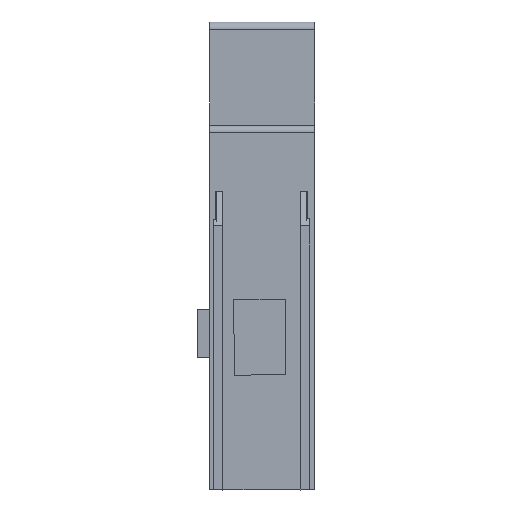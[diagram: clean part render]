
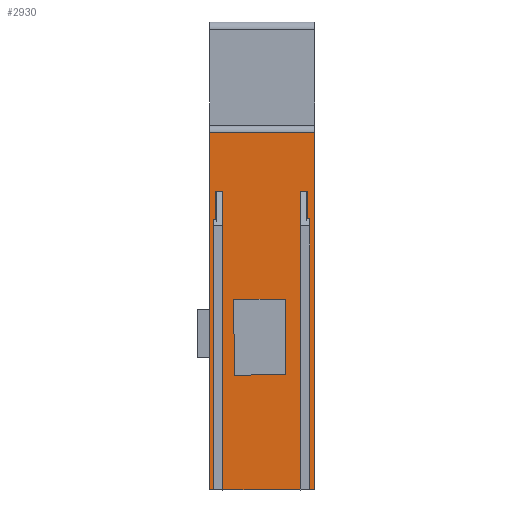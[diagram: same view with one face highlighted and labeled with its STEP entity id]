
A CAD part, front view. The second image highlights one B-rep face of the part: STEP entity #2930.
In plain terms, the highlighted planar face has unit normal (0, -1, 0).
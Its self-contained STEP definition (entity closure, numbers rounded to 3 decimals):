
#11 = VERTEX_POINT ( 'NONE', #1329 ) ;
#48 = DIRECTION ( 'NONE',  ( 0., -1., 0. ) ) ;
#61 = LINE ( 'NONE', #399, #1657 ) ;
#82 = VERTEX_POINT ( 'NONE', #292 ) ;
#87 = FACE_OUTER_BOUND ( 'NONE', #1311, .T. ) ;
#106 = CARTESIAN_POINT ( 'NONE',  ( 1.514, -32.641, 15.684 ) ) ;
#115 = CARTESIAN_POINT ( 'NONE',  ( -7.982, -32.641, 63.491 ) ) ;
#261 = EDGE_CURVE ( 'NONE', #1319, #3561, #1731, .T. ) ;
#278 = CARTESIAN_POINT ( 'NONE',  ( 3.459, -32.641, 0. ) ) ;
#292 = CARTESIAN_POINT ( 'NONE',  ( -7.982, -32.641, 0. ) ) ;
#301 = DIRECTION ( 'NONE',  ( -1., 0., 0. ) ) ;
#303 = DIRECTION ( 'NONE',  ( -1., 0., 0. ) ) ;
#319 = DIRECTION ( 'NONE',  ( 1., 0., 0. ) ) ;
#358 = EDGE_CURVE ( 'NONE', #3573, #3194, #3137, .T. ) ;
#399 = CARTESIAN_POINT ( 'NONE',  ( -8.85, -32.641, 40.5 ) ) ;
#408 = DIRECTION ( 'NONE',  ( 0., 0., -1. ) ) ;
#415 = EDGE_CURVE ( 'NONE', #1973, #4287, #810, .T. ) ;
#451 = CARTESIAN_POINT ( 'NONE',  ( 3.459, -32.641, 40.5 ) ) ;
#452 = CARTESIAN_POINT ( 'NONE',  ( 5.45, -32.641, 48.491 ) ) ;
#625 = LINE ( 'NONE', #1629, #3317 ) ;
#627 = CARTESIAN_POINT ( 'NONE',  ( -7.041, -32.641, 63.491 ) ) ;
#660 = DIRECTION ( 'NONE',  ( 1., 0., 0. ) ) ;
#721 = CARTESIAN_POINT ( 'NONE',  ( 4.462, -32.641, 63.491 ) ) ;
#731 = AXIS2_PLACEMENT_3D ( 'NONE', #2842, #48, #3804 ) ;
#736 = EDGE_CURVE ( 'NONE', #4081, #82, #2147, .T. ) ;
#746 = VECTOR ( 'NONE', #303, 1000. ) ;
#810 = LINE ( 'NONE', #1014, #2540 ) ;
#834 = EDGE_CURVE ( 'NONE', #2017, #1952, #4047, .T. ) ;
#858 = CARTESIAN_POINT ( 'NONE',  ( 5.45, -32.641, 0. ) ) ;
#938 = DIRECTION ( 'NONE',  ( 0., 0., -1. ) ) ;
#1014 = CARTESIAN_POINT ( 'NONE',  ( -8.85, -32.641, 0. ) ) ;
#1023 = LINE ( 'NONE', #2024, #1129 ) ;
#1024 = VERTEX_POINT ( 'NONE', #278 ) ;
#1064 = EDGE_CURVE ( 'NONE', #2327, #2215, #3138, .T. ) ;
#1108 = CARTESIAN_POINT ( 'NONE',  ( -5.349, -32.641, -0.047 ) ) ;
#1111 = EDGE_CURVE ( 'NONE', #2017, #3878, #1938, .T. ) ;
#1129 = VECTOR ( 'NONE', #408, 1000. ) ;
#1165 = EDGE_CURVE ( 'NONE', #1952, #1973, #1023, .T. ) ;
#1175 = LINE ( 'NONE', #721, #3861 ) ;
#1276 = CARTESIAN_POINT ( 'NONE',  ( -7.041, -32.641, 0. ) ) ;
#1311 = EDGE_LOOP ( 'NONE', ( #3599, #3698, #3999, #3935, #3564, #2764, #3845, #2373, #2922, #3612, #2483, #1757 ) ) ;
#1314 = ORIENTED_EDGE ( 'NONE', *, *, #261, .T. ) ;
#1319 = VERTEX_POINT ( 'NONE', #106 ) ;
#1329 = CARTESIAN_POINT ( 'NONE',  ( -7.041, -32.641, 40.5 ) ) ;
#1364 = ORIENTED_EDGE ( 'NONE', *, *, #1064, .T. ) ;
#1392 = LINE ( 'NONE', #3054, #4407 ) ;
#1453 = ORIENTED_EDGE ( 'NONE', *, *, #2283, .T. ) ;
#1506 = CARTESIAN_POINT ( 'NONE',  ( -7.982, -32.641, 40.5 ) ) ;
#1518 = CARTESIAN_POINT ( 'NONE',  ( -5.485, -32.641, 15.561 ) ) ;
#1546 = LINE ( 'NONE', #4429, #746 ) ;
#1582 = EDGE_LOOP ( 'NONE', ( #3173, #1364, #1453, #1314 ) ) ;
#1592 = CARTESIAN_POINT ( 'NONE',  ( -8.85, -32.641, 48.491 ) ) ;
#1629 = CARTESIAN_POINT ( 'NONE',  ( 3.459, -32.641, 63.491 ) ) ;
#1654 = DIRECTION ( 'NONE',  ( 0., 0., -1. ) ) ;
#1657 = VECTOR ( 'NONE', #3821, 1000. ) ;
#1691 = CARTESIAN_POINT ( 'NONE',  ( -8.85, -32.641, 0. ) ) ;
#1731 = LINE ( 'NONE', #2522, #3664 ) ;
#1745 = EDGE_CURVE ( 'NONE', #11, #3370, #1930, .T. ) ;
#1757 = ORIENTED_EDGE ( 'NONE', *, *, #415, .F. ) ;
#1824 = VECTOR ( 'NONE', #938, 1000. ) ;
#1867 = EDGE_CURVE ( 'NONE', #4081, #11, #61, .T. ) ;
#1887 = DIRECTION ( 'NONE',  ( 1., 0., 0. ) ) ;
#1904 = CARTESIAN_POINT ( 'NONE',  ( -8.85, -32.641, 48.491 ) ) ;
#1925 = LINE ( 'NONE', #1108, #2299 ) ;
#1930 = LINE ( 'NONE', #627, #1824 ) ;
#1938 = LINE ( 'NONE', #1691, #2039 ) ;
#1944 = VECTOR ( 'NONE', #1887, 1000. ) ;
#1952 = VERTEX_POINT ( 'NONE', #452 ) ;
#1973 = VERTEX_POINT ( 'NONE', #858 ) ;
#2017 = VERTEX_POINT ( 'NONE', #1592 ) ;
#2018 = CARTESIAN_POINT ( 'NONE',  ( -8.85, -32.641, 40.5 ) ) ;
#2024 = CARTESIAN_POINT ( 'NONE',  ( 5.45, -32.641, 0. ) ) ;
#2039 = VECTOR ( 'NONE', #2722, 1000. ) ;
#2042 = VECTOR ( 'NONE', #3864, 1000. ) ;
#2090 = EDGE_CURVE ( 'NONE', #82, #3878, #1546, .T. ) ;
#2128 = PLANE ( 'NONE',  #731 ) ;
#2147 = LINE ( 'NONE', #115, #2042 ) ;
#2215 = VERTEX_POINT ( 'NONE', #2737 ) ;
#2283 = EDGE_CURVE ( 'NONE', #2215, #1319, #1392, .T. ) ;
#2299 = VECTOR ( 'NONE', #4180, 1000. ) ;
#2327 = VERTEX_POINT ( 'NONE', #3151 ) ;
#2362 = CARTESIAN_POINT ( 'NONE',  ( 0., -32.641, 25.883 ) ) ;
#2373 = ORIENTED_EDGE ( 'NONE', *, *, #3329, .F. ) ;
#2381 = EDGE_CURVE ( 'NONE', #3561, #2327, #1925, .T. ) ;
#2477 = VECTOR ( 'NONE', #319, 1000. ) ;
#2483 = ORIENTED_EDGE ( 'NONE', *, *, #3829, .T. ) ;
#2513 = DIRECTION ( 'NONE',  ( 0., 0., -1. ) ) ;
#2522 = CARTESIAN_POINT ( 'NONE',  ( -0.273, -32.641, 15.652 ) ) ;
#2540 = VECTOR ( 'NONE', #3764, 1000. ) ;
#2595 = CARTESIAN_POINT ( 'NONE',  ( 4.462, -32.641, 0. ) ) ;
#2617 = EDGE_CURVE ( 'NONE', #3573, #1024, #625, .T. ) ;
#2722 = DIRECTION ( 'NONE',  ( 0., 0., -1. ) ) ;
#2737 = CARTESIAN_POINT ( 'NONE',  ( 1.425, -32.641, 25.883 ) ) ;
#2764 = ORIENTED_EDGE ( 'NONE', *, *, #1867, .T. ) ;
#2842 = CARTESIAN_POINT ( 'NONE',  ( -8.85, -32.641, 0. ) ) ;
#2922 = ORIENTED_EDGE ( 'NONE', *, *, #2617, .F. ) ;
#2930 = ADVANCED_FACE ( 'NONE', ( #87, #3101 ), #2128, .T. ) ;
#2931 = LINE ( 'NONE', #4395, #3262 ) ;
#3024 = VECTOR ( 'NONE', #660, 1000. ) ;
#3054 = CARTESIAN_POINT ( 'NONE',  ( 1.651, -32.641, 0.014 ) ) ;
#3101 = FACE_BOUND ( 'NONE', #1582, .T. ) ;
#3137 = LINE ( 'NONE', #2018, #3024 ) ;
#3138 = LINE ( 'NONE', #2362, #2477 ) ;
#3151 = CARTESIAN_POINT ( 'NONE',  ( -5.575, -32.641, 25.883 ) ) ;
#3173 = ORIENTED_EDGE ( 'NONE', *, *, #2381, .T. ) ;
#3194 = VERTEX_POINT ( 'NONE', #4408 ) ;
#3262 = VECTOR ( 'NONE', #301, 1000. ) ;
#3317 = VECTOR ( 'NONE', #1654, 1000. ) ;
#3329 = EDGE_CURVE ( 'NONE', #1024, #3370, #2931, .T. ) ;
#3370 = VERTEX_POINT ( 'NONE', #1276 ) ;
#3548 = CARTESIAN_POINT ( 'NONE',  ( -8.85, -32.641, 0. ) ) ;
#3557 = DIRECTION ( 'NONE',  ( -1., 0., -0.017 ) ) ;
#3561 = VERTEX_POINT ( 'NONE', #1518 ) ;
#3564 = ORIENTED_EDGE ( 'NONE', *, *, #736, .F. ) ;
#3573 = VERTEX_POINT ( 'NONE', #451 ) ;
#3599 = ORIENTED_EDGE ( 'NONE', *, *, #1165, .F. ) ;
#3612 = ORIENTED_EDGE ( 'NONE', *, *, #358, .T. ) ;
#3664 = VECTOR ( 'NONE', #3557, 1000. ) ;
#3698 = ORIENTED_EDGE ( 'NONE', *, *, #834, .F. ) ;
#3749 = DIRECTION ( 'NONE',  ( 0.009, 0., -1. ) ) ;
#3764 = DIRECTION ( 'NONE',  ( -1., 0., 0. ) ) ;
#3804 = DIRECTION ( 'NONE',  ( 0., 0., -1. ) ) ;
#3821 = DIRECTION ( 'NONE',  ( 1., 0., 0. ) ) ;
#3829 = EDGE_CURVE ( 'NONE', #3194, #4287, #1175, .T. ) ;
#3845 = ORIENTED_EDGE ( 'NONE', *, *, #1745, .T. ) ;
#3861 = VECTOR ( 'NONE', #2513, 1000. ) ;
#3864 = DIRECTION ( 'NONE',  ( 0., 0., -1. ) ) ;
#3878 = VERTEX_POINT ( 'NONE', #3548 ) ;
#3935 = ORIENTED_EDGE ( 'NONE', *, *, #2090, .F. ) ;
#3999 = ORIENTED_EDGE ( 'NONE', *, *, #1111, .T. ) ;
#4047 = LINE ( 'NONE', #1904, #1944 ) ;
#4081 = VERTEX_POINT ( 'NONE', #1506 ) ;
#4180 = DIRECTION ( 'NONE',  ( -0.009, 0., 1. ) ) ;
#4287 = VERTEX_POINT ( 'NONE', #2595 ) ;
#4395 = CARTESIAN_POINT ( 'NONE',  ( -8.85, -32.641, 0. ) ) ;
#4407 = VECTOR ( 'NONE', #3749, 1000. ) ;
#4408 = CARTESIAN_POINT ( 'NONE',  ( 4.462, -32.641, 40.5 ) ) ;
#4429 = CARTESIAN_POINT ( 'NONE',  ( -8.85, -32.641, 0. ) ) ;
